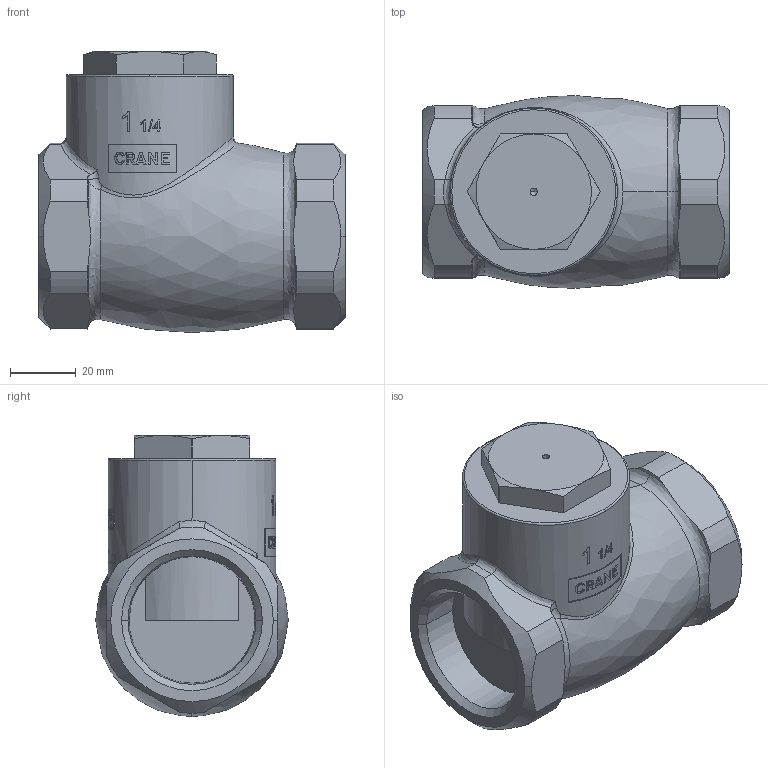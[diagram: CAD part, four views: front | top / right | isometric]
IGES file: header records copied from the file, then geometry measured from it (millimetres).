
Global section: file name: No Iges File Name specified; native system: AutoDesk Inventor R12.0; preprocessor: AutoDesk Inventor Iges Exporter R12.0; date: 20110303.100430; units: millimetre
Bounding box: 93 x 58.4 x 85.2 mm (x, y, z)
Volume: 223576.3 mm3; surface area: 36640.3 mm2
Topology: 1 solids, 2 shells, 437 faces, 1215 edges, 805 vertices
Faces by surface type: bspline 211, plane 127, cylinder 46, revolution 26, cone 24, torus 2, sphere 1
